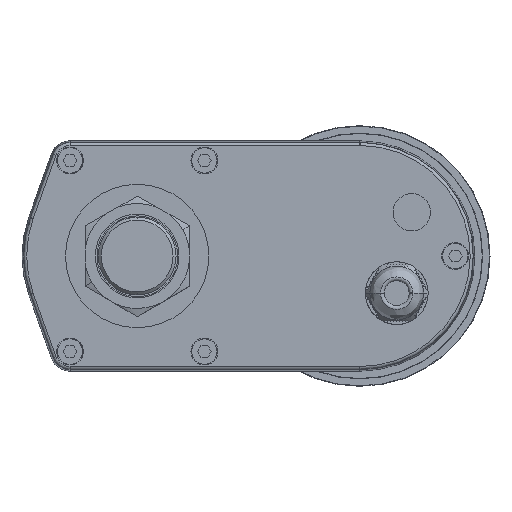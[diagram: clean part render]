
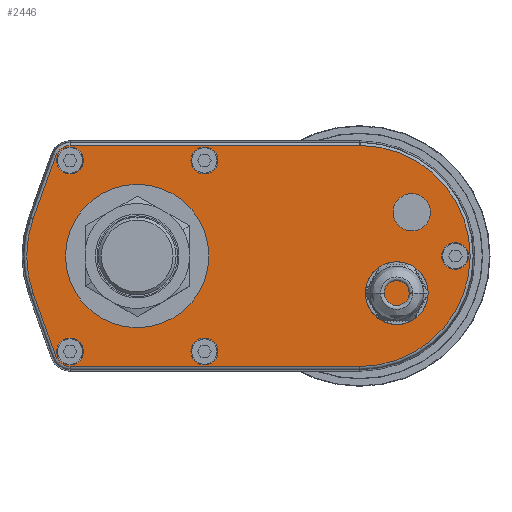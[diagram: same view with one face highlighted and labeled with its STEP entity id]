
A CAD part, left-side view. The second image highlights one B-rep face of the part: STEP entity #2446.
In plain terms, the highlighted planar face has unit normal (-1, 0, 0).
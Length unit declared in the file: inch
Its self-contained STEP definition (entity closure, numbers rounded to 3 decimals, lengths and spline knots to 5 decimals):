
#2446=ADVANCED_FACE('',(#5988,#5989,#5990,#5991,#5992,#5993,#5994,#5995),#5996,.F.);
#5988=FACE_OUTER_BOUND('',#11792,.T.);
#5989=FACE_BOUND('',#11793,.T.);
#5990=FACE_BOUND('',#11794,.T.);
#5991=FACE_BOUND('',#11795,.T.);
#5992=FACE_BOUND('',#11796,.T.);
#5993=FACE_BOUND('',#11797,.T.);
#5994=FACE_BOUND('',#11798,.T.);
#5995=FACE_BOUND('',#11799,.T.);
#5996=PLANE('',#11800);
#11792=EDGE_LOOP('',(#22296,#22297,#22298,#22299,#22300,#22301,#22302,#22303,#22304));
#11793=EDGE_LOOP('',(#22305,#22306));
#11794=EDGE_LOOP('',(#22307,#22308));
#11795=EDGE_LOOP('',(#22309,#22310));
#11796=EDGE_LOOP('',(#22311,#22312));
#11797=EDGE_LOOP('',(#22313,#22314));
#11798=EDGE_LOOP('',(#22315,#22316));
#11799=EDGE_LOOP('',(#22317,#22318));
#11800=AXIS2_PLACEMENT_3D('',#22319,#22320,#22321);
#22296=ORIENTED_EDGE('',*,*,#34458,.T.);
#22297=ORIENTED_EDGE('',*,*,#34818,.T.);
#22298=ORIENTED_EDGE('',*,*,#34819,.T.);
#22299=ORIENTED_EDGE('',*,*,#34820,.T.);
#22300=ORIENTED_EDGE('',*,*,#34821,.T.);
#22301=ORIENTED_EDGE('',*,*,#34822,.T.);
#22302=ORIENTED_EDGE('',*,*,#34823,.T.);
#22303=ORIENTED_EDGE('',*,*,#34824,.T.);
#22304=ORIENTED_EDGE('',*,*,#34825,.T.);
#22305=ORIENTED_EDGE('',*,*,#34826,.F.);
#22306=ORIENTED_EDGE('',*,*,#34827,.F.);
#22307=ORIENTED_EDGE('',*,*,#34828,.F.);
#22308=ORIENTED_EDGE('',*,*,#33953,.F.);
#22309=ORIENTED_EDGE('',*,*,#34829,.F.);
#22310=ORIENTED_EDGE('',*,*,#34830,.F.);
#22311=ORIENTED_EDGE('',*,*,#34831,.F.);
#22312=ORIENTED_EDGE('',*,*,#34832,.F.);
#22313=ORIENTED_EDGE('',*,*,#34833,.F.);
#22314=ORIENTED_EDGE('',*,*,#34834,.F.);
#22315=ORIENTED_EDGE('',*,*,#34835,.F.);
#22316=ORIENTED_EDGE('',*,*,#34836,.F.);
#22317=ORIENTED_EDGE('',*,*,#34837,.F.);
#22318=ORIENTED_EDGE('',*,*,#34838,.F.);
#22319=CARTESIAN_POINT('',(-3.85039,0.,0.));
#22320=DIRECTION('',(1.0,0.0,0.0));
#22321=DIRECTION('',(0.0,1.0,0.0));
#33953=EDGE_CURVE('',#39989,#39984,#39991,.T.);
#34458=EDGE_CURVE('',#40836,#40841,#40843,.T.);
#34818=EDGE_CURVE('',#40841,#41438,#41439,.T.);
#34819=EDGE_CURVE('',#41438,#41440,#41441,.T.);
#34820=EDGE_CURVE('',#41440,#41442,#41443,.T.);
#34821=EDGE_CURVE('',#41442,#41444,#41445,.T.);
#34822=EDGE_CURVE('',#41444,#41446,#41447,.T.);
#34823=EDGE_CURVE('',#41446,#41448,#41449,.T.);
#34824=EDGE_CURVE('',#41448,#41450,#41451,.T.);
#34825=EDGE_CURVE('',#41450,#40836,#41452,.T.);
#34826=EDGE_CURVE('',#41453,#41454,#41455,.T.);
#34827=EDGE_CURVE('',#41454,#41453,#41456,.T.);
#34828=EDGE_CURVE('',#39984,#39989,#41457,.T.);
#34829=EDGE_CURVE('',#41458,#41459,#41460,.T.);
#34830=EDGE_CURVE('',#41459,#41458,#41461,.T.);
#34831=EDGE_CURVE('',#41462,#41463,#41464,.T.);
#34832=EDGE_CURVE('',#41463,#41462,#41465,.T.);
#34833=EDGE_CURVE('',#41466,#41467,#41468,.T.);
#34834=EDGE_CURVE('',#41467,#41466,#41469,.T.);
#34835=EDGE_CURVE('',#41470,#41471,#41472,.T.);
#34836=EDGE_CURVE('',#41471,#41470,#41473,.T.);
#34837=EDGE_CURVE('',#41474,#41475,#41476,.T.);
#34838=EDGE_CURVE('',#41475,#41474,#41477,.T.);
#39984=VERTEX_POINT('',#48936);
#39989=VERTEX_POINT('',#48942);
#39991=CIRCLE('',#48945,0.17717);
#40836=VERTEX_POINT('',#50289);
#40841=VERTEX_POINT('',#50295);
#40843=LINE('',#50297,#50298);
#41438=VERTEX_POINT('',#51210);
#41439=CIRCLE('',#51211,1.45737);
#41440=VERTEX_POINT('',#51212);
#41441=LINE('',#51213,#51214);
#41442=VERTEX_POINT('',#51215);
#41443=CIRCLE('',#51216,0.19753);
#41444=VERTEX_POINT('',#51217);
#41445=LINE('',#51218,#51219);
#41446=VERTEX_POINT('',#51220);
#41447=CIRCLE('',#51221,1.45737);
#41448=VERTEX_POINT('',#51222);
#41449=CIRCLE('',#51223,1.45737);
#41450=VERTEX_POINT('',#51224);
#41451=LINE('',#51225,#51226);
#41452=CIRCLE('',#51227,0.19753);
#41453=VERTEX_POINT('',#51228);
#41454=VERTEX_POINT('',#51229);
#41455=CIRCLE('',#51230,0.94488);
#41456=CIRCLE('',#51231,0.94488);
#41457=CIRCLE('',#51232,0.17717);
#41458=VERTEX_POINT('',#51233);
#41459=VERTEX_POINT('',#51234);
#41460=CIRCLE('',#51235,0.17717);
#41461=CIRCLE('',#51236,0.17717);
#41462=VERTEX_POINT('',#51237);
#41463=VERTEX_POINT('',#51238);
#41464=CIRCLE('',#51239,0.17717);
#41465=CIRCLE('',#51240,0.17717);
#41466=VERTEX_POINT('',#51241);
#41467=VERTEX_POINT('',#51242);
#41468=CIRCLE('',#51243,0.17717);
#41469=CIRCLE('',#51244,0.17717);
#41470=VERTEX_POINT('',#51245);
#41471=VERTEX_POINT('',#51246);
#41472=CIRCLE('',#51247,0.17717);
#41473=CIRCLE('',#51248,0.17717);
#41474=VERTEX_POINT('',#51249);
#41475=VERTEX_POINT('',#51250);
#41476=CIRCLE('',#51251,0.24606);
#41477=CIRCLE('',#51252,0.24606);
#48936=CARTESIAN_POINT('',(-3.85039,0.88583,1.08268));
#48942=CARTESIAN_POINT('',(-3.85039,0.88583,1.43701));
#48945=AXIS2_PLACEMENT_3D('',#61180,#61181,#61182);
#50289=CARTESIAN_POINT('',(-3.85039,1.07171,1.32668));
#50295=CARTESIAN_POINT('',(-3.85039,1.37142,0.49309));
#50297=CARTESIAN_POINT('',(-3.85039,1.07171,1.32668));
#50298=VECTOR('',#61854,0.88583);
#51210=CARTESIAN_POINT('',(-3.85039,1.37142,-0.49309));
#51211=AXIS2_PLACEMENT_3D('',#62299,#62300,#62301);
#51212=CARTESIAN_POINT('',(-3.85039,1.07171,-1.32668));
#51213=CARTESIAN_POINT('',(-3.85039,1.37142,-0.49309));
#51214=VECTOR('',#62302,0.88583);
#51215=CARTESIAN_POINT('',(-3.85039,0.88583,-1.45737));
#51216=AXIS2_PLACEMENT_3D('',#62303,#62304,#62305);
#51217=CARTESIAN_POINT('',(-3.85039,-2.93307,-1.45737));
#51218=CARTESIAN_POINT('',(-3.85039,0.88583,-1.45737));
#51219=VECTOR('',#62306,3.8189);
#51220=CARTESIAN_POINT('',(-3.85039,-2.94857,1.45729));
#51221=AXIS2_PLACEMENT_3D('',#62307,#62308,#62309);
#51222=CARTESIAN_POINT('',(-3.85039,-2.93307,1.45737));
#51223=AXIS2_PLACEMENT_3D('',#62310,#62311,#62312);
#51224=CARTESIAN_POINT('',(-3.85039,0.88583,1.45737));
#51225=CARTESIAN_POINT('',(-3.85039,-2.93307,1.45737));
#51226=VECTOR('',#62313,3.8189);
#51227=AXIS2_PLACEMENT_3D('',#62314,#62315,#62316);
#51228=CARTESIAN_POINT('',(-3.85039,0.,-0.94488));
#51229=CARTESIAN_POINT('',(-3.85039,0.,0.94488));
#51230=AXIS2_PLACEMENT_3D('',#62317,#62318,#62319);
#51231=AXIS2_PLACEMENT_3D('',#62320,#62321,#62322);
#51232=AXIS2_PLACEMENT_3D('',#62323,#62324,#62325);
#51233=CARTESIAN_POINT('',(-3.85039,-0.88583,1.08268));
#51234=CARTESIAN_POINT('',(-3.85039,-0.88583,1.43701));
#51235=AXIS2_PLACEMENT_3D('',#62326,#62327,#62328);
#51236=AXIS2_PLACEMENT_3D('',#62329,#62330,#62331);
#51237=CARTESIAN_POINT('',(-3.85039,-0.88583,-1.43701));
#51238=CARTESIAN_POINT('',(-3.85039,-0.88583,-1.08268));
#51239=AXIS2_PLACEMENT_3D('',#62332,#62333,#62334);
#51240=AXIS2_PLACEMENT_3D('',#62335,#62336,#62337);
#51241=CARTESIAN_POINT('',(-3.85039,0.88583,-1.43701));
#51242=CARTESIAN_POINT('',(-3.85039,0.88583,-1.08268));
#51243=AXIS2_PLACEMENT_3D('',#62338,#62339,#62340);
#51244=AXIS2_PLACEMENT_3D('',#62341,#62342,#62343);
#51245=CARTESIAN_POINT('',(-3.85039,-4.19291,-0.17717));
#51246=CARTESIAN_POINT('',(-3.85039,-4.19291,0.17717));
#51247=AXIS2_PLACEMENT_3D('',#62344,#62345,#62346);
#51248=AXIS2_PLACEMENT_3D('',#62347,#62348,#62349);
#51249=CARTESIAN_POINT('',(-3.85039,-3.6207,0.33093));
#51250=CARTESIAN_POINT('',(-3.85039,-3.6207,0.82305));
#51251=AXIS2_PLACEMENT_3D('',#62350,#62351,#62352);
#51252=AXIS2_PLACEMENT_3D('',#62353,#62354,#62355);
#61180=CARTESIAN_POINT('',(-3.85039,0.88583,1.25984));
#61181=DIRECTION('',(-1.0,0.0,0.0));
#61182=DIRECTION('',(0.0,0.0,1.0));
#61854=DIRECTION('',(0.0,0.338,-0.941));
#62299=CARTESIAN_POINT('',(-3.85039,0.,0.));
#62300=DIRECTION('',(-1.0,0.0,0.0));
#62301=DIRECTION('',(0.0,0.941,0.338));
#62302=DIRECTION('',(0.0,-0.338,-0.941));
#62303=CARTESIAN_POINT('',(-3.85039,0.88583,-1.25984));
#62304=DIRECTION('',(-1.0,0.0,0.0));
#62305=DIRECTION('',(0.0,0.941,-0.338));
#62306=DIRECTION('',(0.0,-1.0,0.0));
#62307=CARTESIAN_POINT('',(-3.85039,-2.93307,0.));
#62308=DIRECTION('',(-1.0,0.0,0.0));
#62309=DIRECTION('',(0.0,0.0,-1.0));
#62310=CARTESIAN_POINT('',(-3.85039,-2.93307,0.));
#62311=DIRECTION('',(-1.0,0.0,0.0));
#62312=DIRECTION('',(0.0,0.0,-1.0));
#62313=DIRECTION('',(0.0,1.0,0.0));
#62314=CARTESIAN_POINT('',(-3.85039,0.88583,1.25984));
#62315=DIRECTION('',(-1.0,0.0,0.0));
#62316=DIRECTION('',(0.0,0.0,1.0));
#62317=CARTESIAN_POINT('',(-3.85039,0.,0.));
#62318=DIRECTION('',(-1.0,0.0,0.0));
#62319=DIRECTION('',(0.0,0.0,-1.0));
#62320=CARTESIAN_POINT('',(-3.85039,0.,0.));
#62321=DIRECTION('',(-1.0,0.0,0.0));
#62322=DIRECTION('',(0.0,0.0,1.0));
#62323=CARTESIAN_POINT('',(-3.85039,0.88583,1.25984));
#62324=DIRECTION('',(-1.0,0.0,0.0));
#62325=DIRECTION('',(0.0,0.0,-1.0));
#62326=CARTESIAN_POINT('',(-3.85039,-0.88583,1.25984));
#62327=DIRECTION('',(-1.0,0.0,0.0));
#62328=DIRECTION('',(0.0,0.0,-1.0));
#62329=CARTESIAN_POINT('',(-3.85039,-0.88583,1.25984));
#62330=DIRECTION('',(-1.0,0.0,0.0));
#62331=DIRECTION('',(0.0,0.0,1.0));
#62332=CARTESIAN_POINT('',(-3.85039,-0.88583,-1.25984));
#62333=DIRECTION('',(-1.0,0.0,0.0));
#62334=DIRECTION('',(0.0,0.0,-1.0));
#62335=CARTESIAN_POINT('',(-3.85039,-0.88583,-1.25984));
#62336=DIRECTION('',(-1.0,0.0,0.0));
#62337=DIRECTION('',(0.0,0.0,1.0));
#62338=CARTESIAN_POINT('',(-3.85039,0.88583,-1.25984));
#62339=DIRECTION('',(-1.0,0.0,0.0));
#62340=DIRECTION('',(0.0,0.0,-1.0));
#62341=CARTESIAN_POINT('',(-3.85039,0.88583,-1.25984));
#62342=DIRECTION('',(-1.0,0.0,0.0));
#62343=DIRECTION('',(0.0,0.0,1.0));
#62344=CARTESIAN_POINT('',(-3.85039,-4.19291,0.));
#62345=DIRECTION('',(-1.0,0.0,0.0));
#62346=DIRECTION('',(0.0,0.0,-1.0));
#62347=CARTESIAN_POINT('',(-3.85039,-4.19291,0.));
#62348=DIRECTION('',(-1.0,0.0,0.0));
#62349=DIRECTION('',(0.0,0.0,1.0));
#62350=CARTESIAN_POINT('',(-3.85039,-3.6207,0.57699));
#62351=DIRECTION('',(-1.0,0.0,0.0));
#62352=DIRECTION('',(0.0,0.0,-1.0));
#62353=CARTESIAN_POINT('',(-3.85039,-3.6207,0.57699));
#62354=DIRECTION('',(-1.0,0.0,0.0));
#62355=DIRECTION('',(0.0,0.0,1.0));
